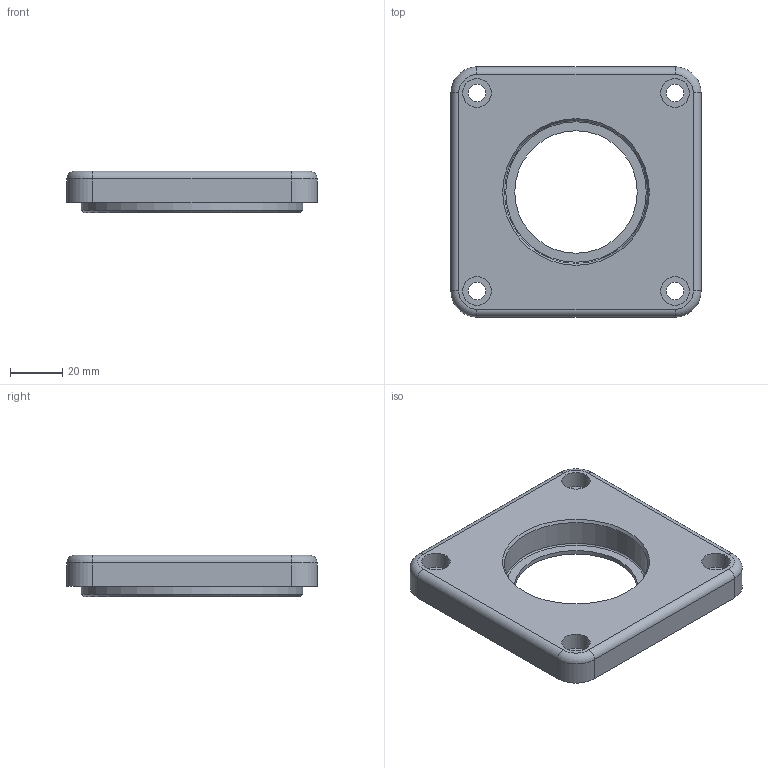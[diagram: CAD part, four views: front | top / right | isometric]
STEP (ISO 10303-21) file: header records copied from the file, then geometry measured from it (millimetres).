
FILE_DESCRIPTION(/* description */ (''),/* implementation_level */ '2;1');
FILE_NAME(/* name */ '',/* time_stamp */ '2025-05-23T15:44:10+09:00',/* author */ ('jhkim'),/* organization */ (''),/* preprocessor_version */ 'ST-DEVELOPER v20.1',/* originating_system */ 'Autodesk Inventor 2026',/* authorisation */ '');
FILE_SCHEMA (('AUTOMOTIVE_DESIGN { 1 0 10303 214 3 1 1 }'));
Length unit declared in the file: millimetre
Products named in the file (1): 앞커버
Bounding box: 96 x 96 x 16 mm (x, y, z)
Volume: 84758.4 mm3; surface area: 23209.2 mm2
Topology: 1 solids, 1 shells, 40 faces, 83 edges, 52 vertices
Faces by surface type: cylinder 19, plane 13, torus 6, cone 2
Full cylindrical faces by diameter (mm): 6.6 x4, 11 x4, 47 x1, 55 x1, 85 x1
Entity records: 1140 total; most frequent: DIRECTION 215, CARTESIAN_POINT 176, ORIENTED_EDGE 166, AXIS2_PLACEMENT_3D 91, EDGE_CURVE 83, EDGE_LOOP 57, VERTEX_POINT 52, CIRCLE 50
